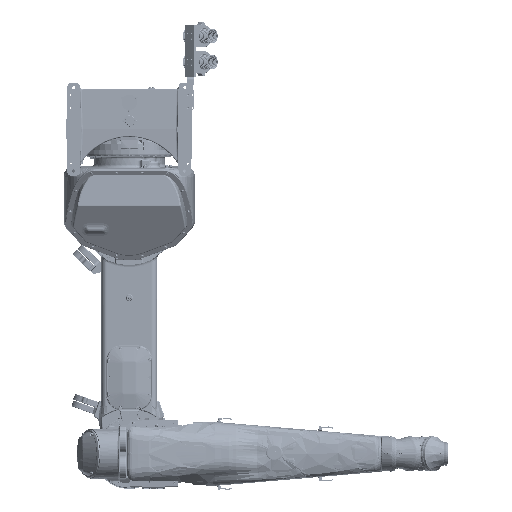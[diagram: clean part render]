
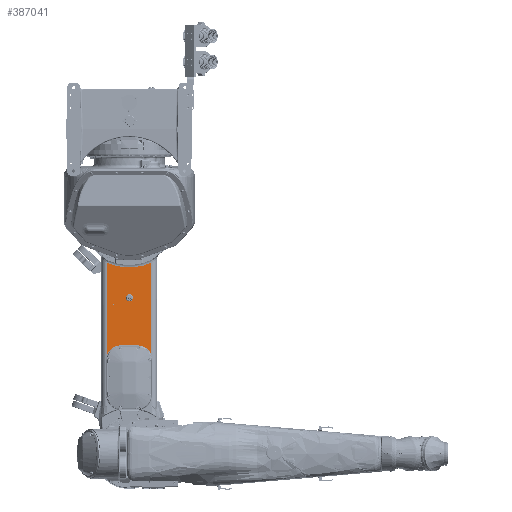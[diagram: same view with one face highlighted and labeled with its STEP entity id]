
A CAD part, left-side view. The second image highlights one B-rep face of the part: STEP entity #387041.
In plain terms, the highlighted planar face has unit normal (-1, 0, 0) as drawn and (0, 0, -1) by its records, which use the part's own axes.
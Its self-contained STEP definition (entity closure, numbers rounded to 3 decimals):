
#12094 = VECTOR ( 'NONE', #212053, 1000. ) ;
#12959 = LINE ( 'NONE', #848790, #12094 ) ;
#14747 = AXIS2_PLACEMENT_3D ( 'NONE', #155658, #657938, #227899 ) ;
#33635 = CARTESIAN_POINT ( 'NONE',  ( 84.05, 577.25, -35. ) ) ;
#55002 = VERTEX_POINT ( 'NONE', #795662 ) ;
#57132 = CARTESIAN_POINT ( 'NONE',  ( 0., 0., -35. ) ) ;
#60212 = PLANE ( 'NONE',  #639559 ) ;
#70505 = EDGE_CURVE ( 'NONE', #714139, #777907, #894176, .T. ) ;
#96757 = CARTESIAN_POINT ( 'NONE',  ( -45., 715.172, -35. ) ) ;
#125478 = CIRCLE ( 'NONE', #359226, 1.35 ) ;
#127084 = DIRECTION ( 'NONE',  ( 0., 0., -1. ) ) ;
#132506 = DIRECTION ( 'NONE',  ( 1., 0., 0. ) ) ;
#148353 = ORIENTED_EDGE ( 'NONE', *, *, #379196, .T. ) ;
#155658 = CARTESIAN_POINT ( 'NONE',  ( -85.4, 495., -35. ) ) ;
#156663 = EDGE_CURVE ( 'NONE', #773677, #773677, #203359, .T. ) ;
#157214 = CIRCLE ( 'NONE', #293299, 295. ) ;
#178587 = DIRECTION ( 'NONE',  ( 0., 0., 1. ) ) ;
#183182 = EDGE_LOOP ( 'NONE', ( #219946 ) ) ;
#192405 = CIRCLE ( 'NONE', #14747, 1.35 ) ;
#196818 = DIRECTION ( 'NONE',  ( 0., 0., 1. ) ) ;
#203359 = CIRCLE ( 'NONE', #493595, 1.35 ) ;
#212053 = DIRECTION ( 'NONE',  ( 0., -1., 0. ) ) ;
#219946 = ORIENTED_EDGE ( 'NONE', *, *, #824010, .F. ) ;
#220008 = ORIENTED_EDGE ( 'NONE', *, *, #70505, .T. ) ;
#227899 = DIRECTION ( 'NONE',  ( -1., 0., 0. ) ) ;
#240209 = EDGE_CURVE ( 'NONE', #316428, #714139, #268280, .T. ) ;
#244629 = CARTESIAN_POINT ( 'NONE',  ( 45., 795., -35. ) ) ;
#252851 = DIRECTION ( 'NONE',  ( 0., 0., 1. ) ) ;
#253350 = ORIENTED_EDGE ( 'NONE', *, *, #303152, .T. ) ;
#255728 = EDGE_CURVE ( 'NONE', #930890, #930890, #315123, .T. ) ;
#268280 = CIRCLE ( 'NONE', #810284, 79.828 ) ;
#286001 = EDGE_LOOP ( 'NONE', ( #456977 ) ) ;
#293299 = AXIS2_PLACEMENT_3D ( 'NONE', #608628, #178587, #680722 ) ;
#303152 = EDGE_CURVE ( 'NONE', #55002, #329022, #157214, .T. ) ;
#304483 = CARTESIAN_POINT ( 'NONE',  ( -86.75, 495., -35. ) ) ;
#304498 = EDGE_CURVE ( 'NONE', #832782, #55002, #12959, .T. ) ;
#315123 = CIRCLE ( 'NONE', #474273, 1.35 ) ;
#316428 = VERTEX_POINT ( 'NONE', #359992 ) ;
#316821 = DIRECTION ( 'NONE',  ( 1., 0., 0. ) ) ;
#323576 = EDGE_CURVE ( 'NONE', #640789, #640789, #784485, .T. ) ;
#329022 = VERTEX_POINT ( 'NONE', #852040 ) ;
#337569 = AXIS2_PLACEMENT_3D ( 'NONE', #682805, #252851, #754765 ) ;
#343780 = CARTESIAN_POINT ( 'NONE',  ( -85.4, 577.25, -35. ) ) ;
#350729 = EDGE_CURVE ( 'NONE', #523802, #523802, #192405, .T. ) ;
#359226 = AXIS2_PLACEMENT_3D ( 'NONE', #557233, #127084, #629429 ) ;
#359992 = CARTESIAN_POINT ( 'NONE',  ( -119.807, 767.135, -35. ) ) ;
#372482 = VECTOR ( 'NONE', #496160, 1000. ) ;
#372679 = LINE ( 'NONE', #493075, #372482 ) ;
#379196 = EDGE_CURVE ( 'NONE', #329022, #316428, #372679, .T. ) ;
#387041 = ADVANCED_FACE ( 'NONE', ( #861219, #853831, #855052, #853982, #853129, #852966 ), #60212, .F. ) ;
#410991 = ORIENTED_EDGE ( 'NONE', *, *, #304498, .T. ) ;
#411807 = CARTESIAN_POINT ( 'NONE',  ( 84.05, 495., -35. ) ) ;
#416054 = DIRECTION ( 'NONE',  ( -1., 0., 0. ) ) ;
#443727 = EDGE_LOOP ( 'NONE', ( #148353, #455302, #220008, #762449, #410991, #253350 ) ) ;
#455302 = ORIENTED_EDGE ( 'NONE', *, *, #240209, .T. ) ;
#456977 = ORIENTED_EDGE ( 'NONE', *, *, #323576, .T. ) ;
#474273 = AXIS2_PLACEMENT_3D ( 'NONE', #343780, #845276, #416054 ) ;
#493075 = CARTESIAN_POINT ( 'NONE',  ( -119.807, 1300., -35. ) ) ;
#493595 = AXIS2_PLACEMENT_3D ( 'NONE', #743862, #743613, #742740 ) ;
#496160 = DIRECTION ( 'NONE',  ( 0., 1., 0. ) ) ;
#508277 = VERTEX_POINT ( 'NONE', #411807 ) ;
#522188 = ORIENTED_EDGE ( 'NONE', *, *, #350729, .F. ) ;
#523802 = VERTEX_POINT ( 'NONE', #304483 ) ;
#526745 = CIRCLE ( 'NONE', #609204, 79.828 ) ;
#557233 = CARTESIAN_POINT ( 'NONE',  ( 85.4, 495., -35. ) ) ;
#562641 = DIRECTION ( 'NONE',  ( 0., 0., 1. ) ) ;
#578077 = CARTESIAN_POINT ( 'NONE',  ( -86.75, 577.25, -35. ) ) ;
#608628 = CARTESIAN_POINT ( 'NONE',  ( 0., 0., -35. ) ) ;
#609204 = AXIS2_PLACEMENT_3D ( 'NONE', #244629, #746560, #316821 ) ;
#626888 = CARTESIAN_POINT ( 'NONE',  ( -45., 795., -35. ) ) ;
#628343 = ORIENTED_EDGE ( 'NONE', *, *, #156663, .F. ) ;
#628364 = CARTESIAN_POINT ( 'NONE',  ( 19.582, 458.955, -35. ) ) ;
#629429 = DIRECTION ( 'NONE',  ( -1., 0., 0. ) ) ;
#639559 = AXIS2_PLACEMENT_3D ( 'NONE', #57132, #562641, #132506 ) ;
#640789 = VERTEX_POINT ( 'NONE', #628364 ) ;
#653648 = EDGE_CURVE ( 'NONE', #777907, #832782, #526745, .T. ) ;
#657938 = DIRECTION ( 'NONE',  ( 0., 0., -1. ) ) ;
#680722 = DIRECTION ( 'NONE',  ( 1., 0., 0. ) ) ;
#682805 = CARTESIAN_POINT ( 'NONE',  ( 0., 458.955, -35. ) ) ;
#698846 = DIRECTION ( 'NONE',  ( 1., 0., 0. ) ) ;
#714139 = VERTEX_POINT ( 'NONE', #96757 ) ;
#723074 = ORIENTED_EDGE ( 'NONE', *, *, #255728, .F. ) ;
#741617 = EDGE_LOOP ( 'NONE', ( #522188 ) ) ;
#742740 = DIRECTION ( 'NONE',  ( -1., 0., 0. ) ) ;
#743613 = DIRECTION ( 'NONE',  ( 0., 0., -1. ) ) ;
#743862 = CARTESIAN_POINT ( 'NONE',  ( 85.4, 577.25, -35. ) ) ;
#746560 = DIRECTION ( 'NONE',  ( 0., 0., 1. ) ) ;
#750754 = CARTESIAN_POINT ( 'NONE',  ( 45., 715.172, -35. ) ) ;
#754765 = DIRECTION ( 'NONE',  ( 1., 0., 0. ) ) ;
#762449 = ORIENTED_EDGE ( 'NONE', *, *, #653648, .T. ) ;
#769242 = CARTESIAN_POINT ( 'NONE',  ( 119.807, 767.135, -35. ) ) ;
#773677 = VERTEX_POINT ( 'NONE', #33635 ) ;
#775464 = EDGE_LOOP ( 'NONE', ( #628343 ) ) ;
#777907 = VERTEX_POINT ( 'NONE', #750754 ) ;
#784485 = CIRCLE ( 'NONE', #337569, 19.582 ) ;
#795662 = CARTESIAN_POINT ( 'NONE',  ( 119.807, 269.576, -35. ) ) ;
#810284 = AXIS2_PLACEMENT_3D ( 'NONE', #626888, #196818, #698846 ) ;
#824010 = EDGE_CURVE ( 'NONE', #508277, #508277, #125478, .T. ) ;
#832782 = VERTEX_POINT ( 'NONE', #769242 ) ;
#845276 = DIRECTION ( 'NONE',  ( 0., 0., -1. ) ) ;
#848790 = CARTESIAN_POINT ( 'NONE',  ( 119.807, 19.11, -35. ) ) ;
#852040 = CARTESIAN_POINT ( 'NONE',  ( -119.807, 269.576, -35. ) ) ;
#852966 = FACE_OUTER_BOUND ( 'NONE', #443727, .T. ) ;
#853129 = FACE_BOUND ( 'NONE', #286001, .T. ) ;
#853831 = FACE_BOUND ( 'NONE', #775464, .T. ) ;
#853982 = FACE_BOUND ( 'NONE', #855404, .T. ) ;
#855052 = FACE_BOUND ( 'NONE', #741617, .T. ) ;
#855404 = EDGE_LOOP ( 'NONE', ( #723074 ) ) ;
#861219 = FACE_BOUND ( 'NONE', #183182, .T. ) ;
#885070 = VECTOR ( 'NONE', #895361, 1000. ) ;
#894176 = LINE ( 'NONE', #902776, #885070 ) ;
#895361 = DIRECTION ( 'NONE',  ( 1., 0., 0. ) ) ;
#902776 = CARTESIAN_POINT ( 'NONE',  ( 0., 715.172, -35. ) ) ;
#930890 = VERTEX_POINT ( 'NONE', #578077 ) ;
